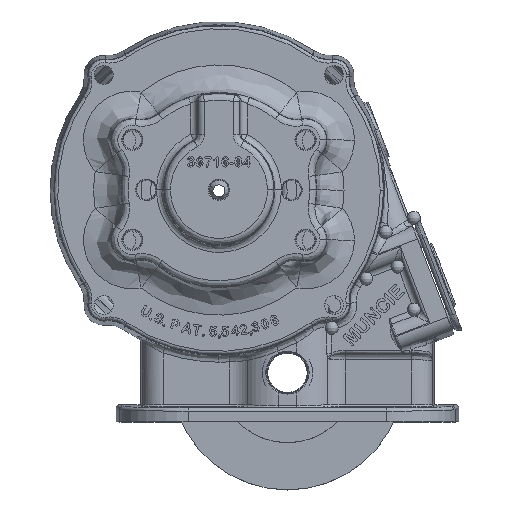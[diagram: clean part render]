
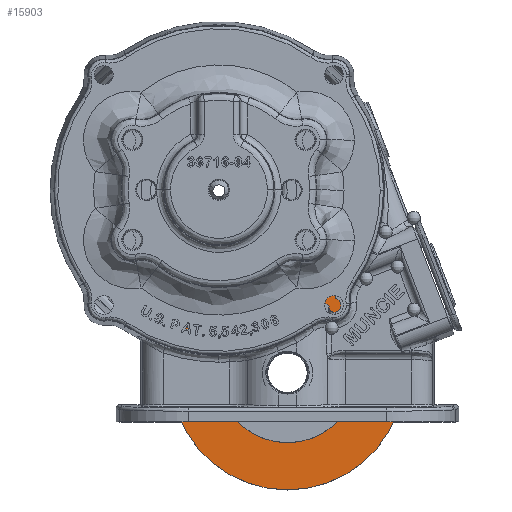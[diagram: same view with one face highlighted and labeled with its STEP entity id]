
A CAD part, top view. The second image highlights one B-rep face of the part: STEP entity #15903.
In plain terms, the highlighted planar face has unit normal (0, 0, 1).
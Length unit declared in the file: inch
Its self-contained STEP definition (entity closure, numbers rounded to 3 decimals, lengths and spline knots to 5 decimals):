
#13252 = ORIENTED_EDGE ( 'NONE', *, *, #24580, .T. ) ;
#13254 = ORIENTED_EDGE ( 'NONE', *, *, #24551, .T. ) ;
#13256 = ORIENTED_EDGE ( 'NONE', *, *, #24578, .F. ) ;
#13257 = ORIENTED_EDGE ( 'NONE', *, *, #24561, .F. ) ;
#15903 = ADVANCED_FACE ( 'NONE', ( #58740, #58735 ), #58744, .T. ) ;
#24551 = EDGE_CURVE ( 'NONE', #98081, #98087, #72794, .T. ) ;
#24561 = EDGE_CURVE ( 'NONE', #98105, #98107, #72818, .T. ) ;
#24578 = EDGE_CURVE ( 'NONE', #98107, #98105, #72851, .T. ) ;
#24580 = EDGE_CURVE ( 'NONE', #98087, #98081, #72856, .T. ) ;
#32333 = CARTESIAN_POINT ( 'NONE',  ( 0.29733, -1.46446, -0.27766 ) ) ;
#32335 = DIRECTION ( 'NONE',  ( 0., 0., 1. ) ) ;
#32337 = DIRECTION ( 'NONE',  ( 0., -1., 0. ) ) ;
#32374 = CARTESIAN_POINT ( 'NONE',  ( 0.29733, -1.46446, -0.27766 ) ) ;
#32376 = DIRECTION ( 'NONE',  ( 0., 0., 1. ) ) ;
#32378 = DIRECTION ( 'NONE',  ( 0., -1., 0. ) ) ;
#32448 = CARTESIAN_POINT ( 'NONE',  ( 0.29733, -1.46446, -0.27766 ) ) ;
#32450 = DIRECTION ( 'NONE',  ( 0., 0., 1. ) ) ;
#32452 = DIRECTION ( 'NONE',  ( 0., -1., 0. ) ) ;
#32457 = CARTESIAN_POINT ( 'NONE',  ( 0.29733, -1.46446, -0.27766 ) ) ;
#32459 = DIRECTION ( 'NONE',  ( 0., 0., 1. ) ) ;
#32461 = DIRECTION ( 'NONE',  ( 0., -1., 0. ) ) ;
#58735 = FACE_BOUND ( 'NONE', #97846, .T. ) ;
#58736 = CARTESIAN_POINT ( 'NONE',  ( 0.29733, -1.46446, -0.27766 ) ) ;
#58740 = FACE_OUTER_BOUND ( 'NONE', #97820, .T. ) ;
#58744 = PLANE ( 'NONE',  #71262 ) ;
#58745 = DIRECTION ( 'NONE',  ( 0., 0., 1. ) ) ;
#58746 = DIRECTION ( 'NONE',  ( 0., -1., 0. ) ) ;
#64197 = CARTESIAN_POINT ( 'NONE',  ( 0.29733, -3.59946, -0.27766 ) ) ;
#64200 = CARTESIAN_POINT ( 'NONE',  ( 0.29733, 0.67054, -0.27766 ) ) ;
#64209 = CARTESIAN_POINT ( 'NONE',  ( 0.29733, -2.66446, -0.27766 ) ) ;
#64210 = CARTESIAN_POINT ( 'NONE',  ( 0.29733, -0.26446, -0.27766 ) ) ;
#71262 = AXIS2_PLACEMENT_3D ( 'NONE', #58736, #58745, #58746 ) ;
#72794 = CIRCLE ( 'NONE', #72805, 2.135 ) ;
#72805 = AXIS2_PLACEMENT_3D ( 'NONE', #32333, #32335, #32337 ) ;
#72818 = CIRCLE ( 'NONE', #72822, 1.2 ) ;
#72822 = AXIS2_PLACEMENT_3D ( 'NONE', #32374, #32376, #32378 ) ;
#72851 = CIRCLE ( 'NONE', #72858, 1.2 ) ;
#72856 = CIRCLE ( 'NONE', #72862, 2.135 ) ;
#72858 = AXIS2_PLACEMENT_3D ( 'NONE', #32448, #32450, #32452 ) ;
#72862 = AXIS2_PLACEMENT_3D ( 'NONE', #32457, #32459, #32461 ) ;
#97820 = EDGE_LOOP ( 'NONE', ( #13252, #13254 ) ) ;
#97846 = EDGE_LOOP ( 'NONE', ( #13256, #13257 ) ) ;
#98081 = VERTEX_POINT ( 'NONE', #64197 ) ;
#98087 = VERTEX_POINT ( 'NONE', #64200 ) ;
#98105 = VERTEX_POINT ( 'NONE', #64209 ) ;
#98107 = VERTEX_POINT ( 'NONE', #64210 ) ;
